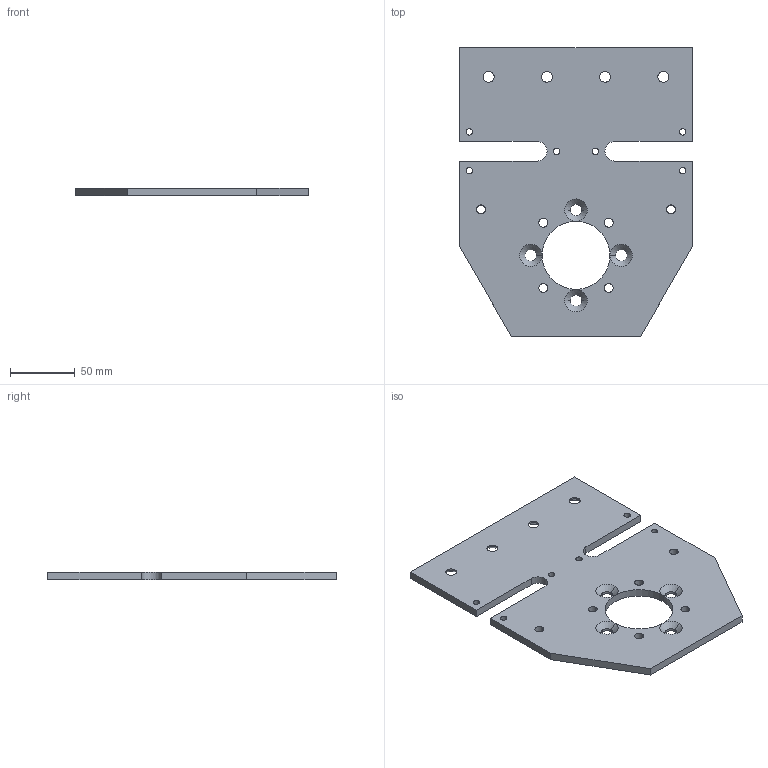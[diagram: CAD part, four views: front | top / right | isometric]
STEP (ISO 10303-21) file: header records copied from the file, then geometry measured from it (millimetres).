
FILE_DESCRIPTION (( 'STEP AP203' ), '1' );
FILE_NAME ('084.802.003-1.STEP', '2013-01-29T13:25:35', ( 'Alusic' ), ( 'Alusic' ), 'SwSTEP 2.0', 'SolidWorks 2011', '' );
FILE_SCHEMA (( 'CONFIG_CONTROL_DESIGN' ));
Length unit declared in the file: millimetre
Products named in the file (1): 084.802.003-1
Bounding box: 180 x 223 x 6 mm (x, y, z)
Volume: 191240.1 mm3; surface area: 74073.4 mm2
Topology: 1 solids, 1 shells, 75 faces, 203 edges, 130 vertices
Faces by surface type: cylinder 45, cone 16, plane 14
Entity records: 2556 total; most frequent: DIRECTION 461, CARTESIAN_POINT 409, ORIENTED_EDGE 406, EDGE_CURVE 203, AXIS2_PLACEMENT_3D 182, VERTEX_POINT 130, EDGE_LOOP 117, CIRCLE 106
